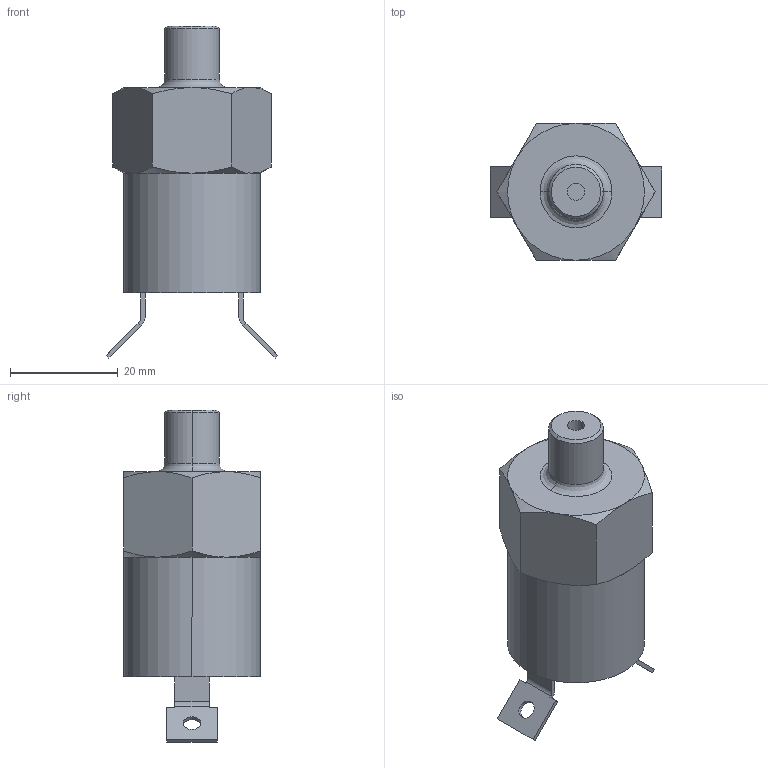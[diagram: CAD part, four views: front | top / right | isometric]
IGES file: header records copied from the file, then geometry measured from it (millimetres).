
Global section: file name: No Iges File Name specified; native system: AutoDesk Inventor R5.0; preprocessor: AutoDesk Inventor Iges Exporter R5.0; author: No Author specified; organization: No Organization specified; date: 20030119.154701; units: inch
Bounding box: 31.89 x 25.4 x 61.61 mm (x, y, z)
Volume: 20986.6 mm3; surface area: 5346.7 mm2
Topology: 1 solids, 1 shells, 62 faces, 152 edges, 96 vertices
Faces by surface type: bspline 25, plane 21, cone 8, cylinder 5, revolution 3
